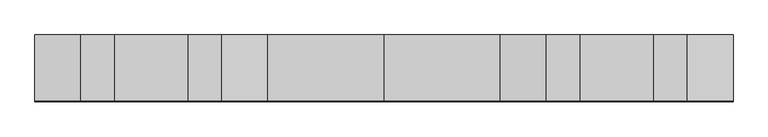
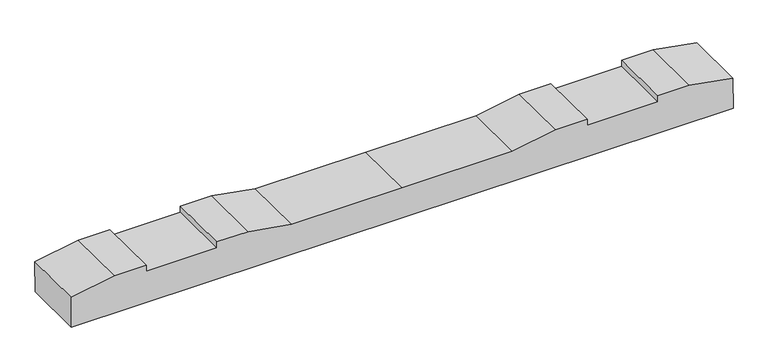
"""IFC4 building model written with IfcOpenShell, lengths in millimetres: proxy geometry, 轨枕-立面角度 : 轨枕-立面角度."""

from ifc_helpers import new_model, si_unit, frame, origin, place, context, project, spatial, polyline, outline, extrude, source, transform, mapped, element, save


def generic_models_0867c004(model_context):
    return source(origin(), model_context, "Body", "SweptSolid", [
        extrude(outline(polyline([(0.0, 0.0), (0.0, -100.0206889), (-137.8834664, -124.4999999), (-237.8834664, -124.4999999), (-237.8834664, -104.4999999), (-461.8834664, -104.4999999), (-461.8834664, -124.4999999), (-561.8834664, -124.4999999), (-699.8834664, -99.9999999), (-1049.8834664, -99.9999999), (-1399.8834664, -99.9999999), (-1537.8834664, -124.4999999), (-1637.8834664, -124.4999999), (-1637.8834664, -104.4999999), (-1861.8834664, -104.4999999), (-1861.8834664, -124.4999999), (-1961.8834664, -124.4999999), (-2099.7669328, -100.0206889), (-2099.7669328, 0.0), (0.0, 0.0)])), frame((-1049.8834664, 99.0878578, -105.3652999), z_axis=(0.0, -0.999962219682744, 0.008692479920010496), x_axis=(-1.0, 0.0, 0.0)), (0.0, 0.0, 1.0), 200.0),
    ])


if __name__ == "__main__":
    model = new_model("IFC4")
    model_context = context("Model", 3, world=origin())
    ifc_project = project(units=[si_unit("LENGTHUNIT", "METRE", prefix="MILLI")], contexts=[model_context])
    site = spatial("IfcSite", under=ifc_project)
    building = spatial("IfcBuilding", under=site)
    placement = place(None, origin())
    generic_models_shape = generic_models_0867c004(model_context)
    element("IfcBuildingElementProxy", 1, Name="轨枕-立面角度 : 轨枕-立面角度", ObjectType="轨枕-立面角度 : 轨枕-立面角度", at=placement, inside=building, context=model_context, shape_type="MappedRepresentation", body=[
        mapped(generic_models_shape, transform((0.0, 0.0, 0.0), x_axis=(1.0, 0.0, 0.0), y_axis=(0.0, 1.0, 0.0), z_axis=(0.0, 0.0, 1.0))),
    ])
    save(model, "model.ifc")
